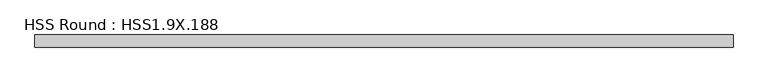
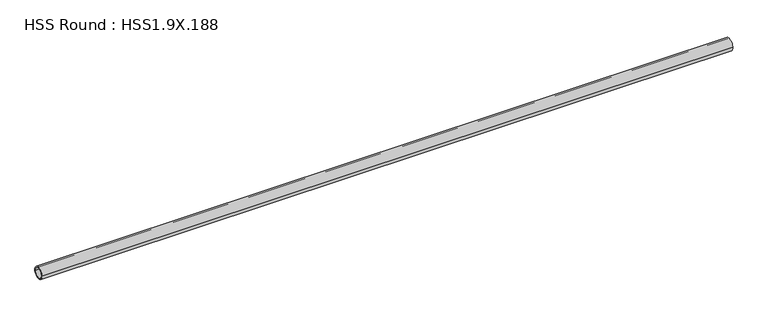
"""IFC4 building model written with IfcOpenShell, lengths in millimetres: member geometry, HSS Round : HSS1.9X.188."""

from ifc_helpers import new_model, si_unit, point, frame, origin, origin_2d, place, context, project, spatial, circle_curve, trimmed, segment, composite_curve, outline, extrude, source, transform, mapped, element, save


def hss_round_hss1_9x_188_7fa8458e(model_context):
    return source(origin(), model_context, "Body", "SweptSolid", [
        extrude(outline(composite_curve([segment(trimmed(circle_curve(origin_2d(), 24.13), [point((-24.13, 0.0))], [point((24.13, 0.0))], False, "CARTESIAN"), True, "CONTINUOUS"), segment(trimmed(circle_curve(origin_2d(), 24.13), [point((24.13, 0.0))], [point((-24.13, 0.0))], False, "CARTESIAN"), True, "CONTINUOUS")], self_intersect=False), holes=[composite_curve([segment(trimmed(circle_curve(origin_2d(), 19.3548), [point((19.3548, 0.0))], [point((-19.3548, 0.0))], True, "CARTESIAN"), True, "CONTINUOUS"), segment(trimmed(circle_curve(origin_2d(), 19.3548), [point((-19.3548, 0.0))], [point((19.3548, 0.0))], True, "CARTESIAN"), True, "CONTINUOUS")], self_intersect=False)]), frame((-1397.6372069, 0.0, 0.0), z_axis=(1.0, 0.0, 0.0), x_axis=(0.0, 1.0, 0.0)), (0.0, 0.0, 1.0), 2774.8903947),
    ])


if __name__ == "__main__":
    model = new_model("IFC4")
    model_context = context("Model", 3, world=origin())
    ifc_project = project(units=[si_unit("LENGTHUNIT", "METRE", prefix="MILLI")], contexts=[model_context])
    site = spatial("IfcSite", under=ifc_project)
    building = spatial("IfcBuilding", under=site)
    placement = place(None, origin())
    hss_round_hss1_9x_188_shape = hss_round_hss1_9x_188_7fa8458e(model_context)
    element("IfcMember", 1, ObjectType="HSS Round : HSS1.9X.188", at=placement, inside=building, context=model_context, shape_type="MappedRepresentation", body=[
        mapped(hss_round_hss1_9x_188_shape, transform((0.0, 0.0, 0.0), x_axis=(1.0, 0.0, 0.0), y_axis=(0.0, 1.0, 0.0), z_axis=(0.0, 0.0, 1.0))),
    ])
    save(model, "model.ifc")
